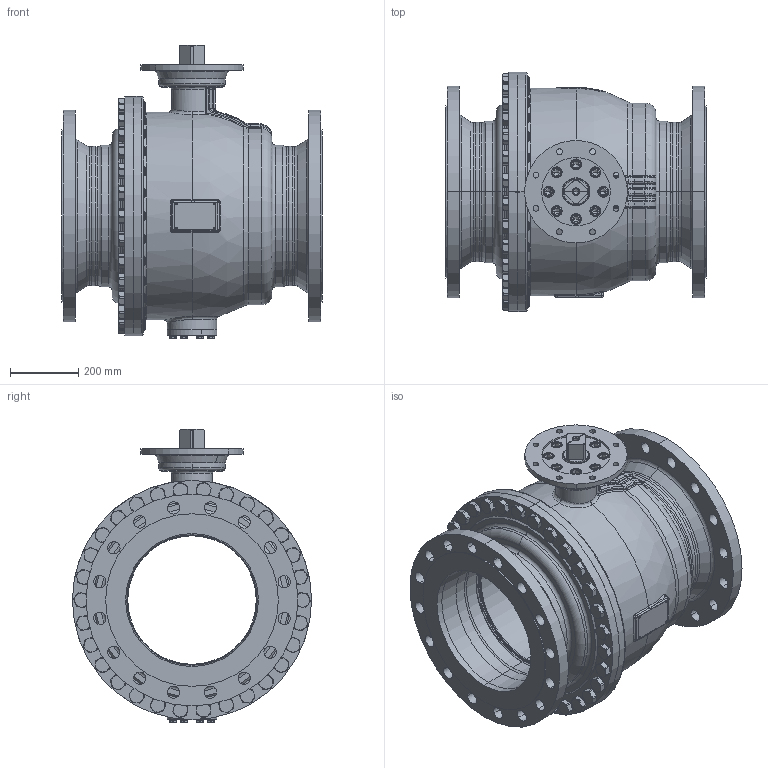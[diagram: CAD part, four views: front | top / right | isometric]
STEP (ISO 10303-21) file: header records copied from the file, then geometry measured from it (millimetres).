
FILE_DESCRIPTION((''),'2;1');
FILE_NAME('KHI-F_400_PN025-F25-4_SW0001','2026-02-05T16:05:35',('fischerkl'),('KLINGER'),'CREO PARAMETRIC BY PTC INC, 2023014','CREO PARAMETRIC BY PTC INC, 2023014','');
FILE_SCHEMA(('CONFIG_CONTROL_DESIGN'));
Products named in the file (1): KHI-F_400_PN025-F25-4_SW0001
Bounding box: 762 x 700 x 858.3 mm (x, y, z)
Volume: 57343666.9 mm3; surface area: 6961564.7 mm2
Topology: 1 solids, 4 shells, 3548 faces, 8934 edges, 5577 vertices
Faces by surface type: plane 1754, cylinder 849, cone 508, torus 307, bspline 99, sphere 31
Entity records: 151905 total; most frequent: CARTESIAN_POINT 67490, ORIENTED_EDGE 17816, DIRECTION 17489, EDGE_CURVE 8908, AXIS2_PLACEMENT_3D 6715, VERTEX_POINT 5577, VECTOR 4059, LINE 4059
